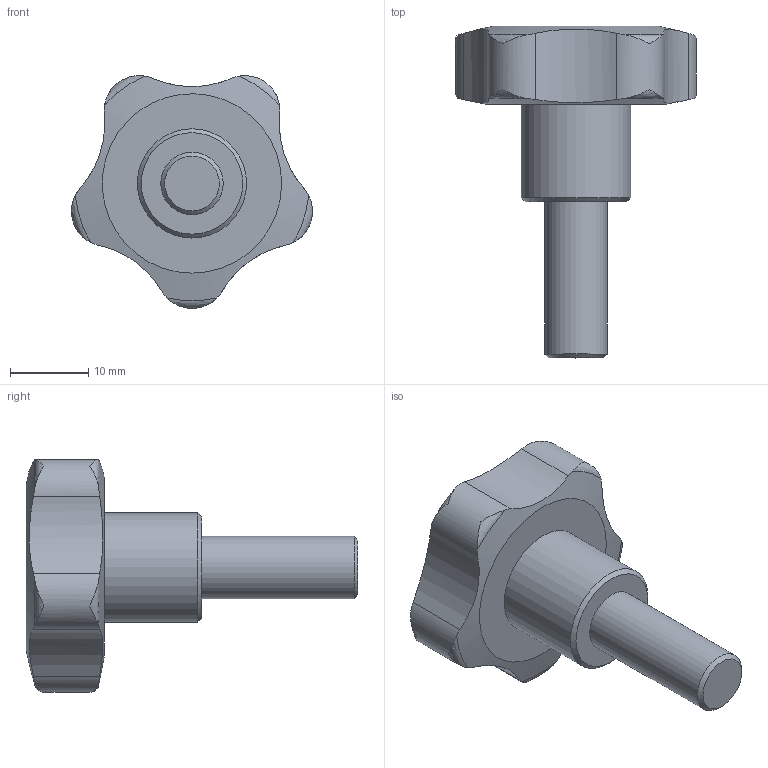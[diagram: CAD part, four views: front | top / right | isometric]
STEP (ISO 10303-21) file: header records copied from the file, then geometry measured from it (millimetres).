
FILE_DESCRIPTION( ( 'STEP AP203' ), '1' );
FILE_NAME( 'C:/Temp/Ganter_Step_05_03_2020/data/2_2/gn_5337_4/gn_5337_4_s/Star knob GN 5337.4-32-M8-20.stp', '2020-03-05T12:09:44', ( 'License CC BY-ND 4.0' ), ( 'CADENAS' ), ' ', 'PARTsolutions', ' ' );
FILE_SCHEMA( ( 'CONFIG_CONTROL_DESIGN' ) );
Length unit declared in the file: millimetre
Products named in the file (1): _Star knob GN 5337.4-32-M8-20
Bounding box: 30.87 x 42.5 x 29.8 mm (x, y, z)
Volume: 8819.9 mm3; surface area: 3138.6 mm2
Topology: 1 solids, 2 shells, 34 faces, 90 edges, 61 vertices
Faces by surface type: cylinder 14, torus 10, plane 5, cone 3, bspline 1, sphere 1
Full cylindrical faces by diameter (mm): 7 x1, 7.2 x1, 8 x1, 14 x1
Entity records: 1439 total; most frequent: CARTESIAN_POINT 674, ORIENTED_EDGE 154, DIRECTION 122, EDGE_CURVE 77, VERTEX_POINT 58, AXIS2_PLACEMENT_3D 56, EDGE_LOOP 46, B_SPLINE_CURVE_WITH_KNOTS 45
